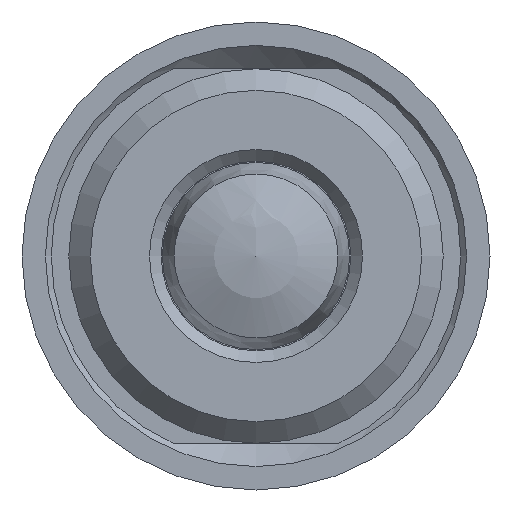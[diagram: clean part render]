
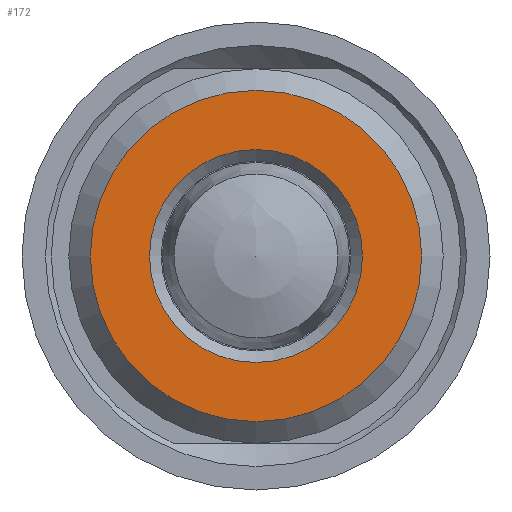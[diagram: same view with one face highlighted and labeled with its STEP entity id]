
A CAD part, left-side view. The second image highlights one B-rep face of the part: STEP entity #172.
In plain terms, the highlighted planar face has unit normal (-1, 0, 0) as drawn and (1, 0, 0) by its records, which use the part's own axes.
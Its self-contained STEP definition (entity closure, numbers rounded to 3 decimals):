
#172 = ADVANCED_FACE( '', ( #221, #222 ), #223, .F. );
#221 = FACE_BOUND( '', #350, .T. );
#222 = FACE_OUTER_BOUND( '', #351, .T. );
#223 = PLANE( '', #352 );
#350 = EDGE_LOOP( '', ( #493 ) );
#351 = EDGE_LOOP( '', ( #494 ) );
#352 = AXIS2_PLACEMENT_3D( '', #495, #496, #497 );
#493 = ORIENTED_EDGE( '', *, *, #713, .F. );
#494 = ORIENTED_EDGE( '', *, *, #714, .T. );
#495 = CARTESIAN_POINT( '', ( 48., 7.08, 0. ) );
#496 = DIRECTION( '', ( -1., 0., 0. ) );
#497 = DIRECTION( '', ( 0., 0., 1. ) );
#713 = EDGE_CURVE( '', #773, #773, #774, .T. );
#714 = EDGE_CURVE( '', #775, #775, #776, .T. );
#773 = VERTEX_POINT( '', #897 );
#774 = CIRCLE( '', #898, 4.55 );
#775 = VERTEX_POINT( '', #899 );
#776 = CIRCLE( '', #900, 7.08 );
#897 = CARTESIAN_POINT( '', ( 48., 0., -4.55 ) );
#898 = AXIS2_PLACEMENT_3D( '', #1299, #1300, #1301 );
#899 = CARTESIAN_POINT( '', ( 48., 0., -7.08 ) );
#900 = AXIS2_PLACEMENT_3D( '', #1302, #1303, #1304 );
#1299 = CARTESIAN_POINT( '', ( 48., 0., 0. ) );
#1300 = DIRECTION( '', ( 1., 0., 0. ) );
#1301 = DIRECTION( '', ( 0., 0., -1. ) );
#1302 = CARTESIAN_POINT( '', ( 48., 0., 0. ) );
#1303 = DIRECTION( '', ( 1., 0., 0. ) );
#1304 = DIRECTION( '', ( 0., 0., -1. ) );
